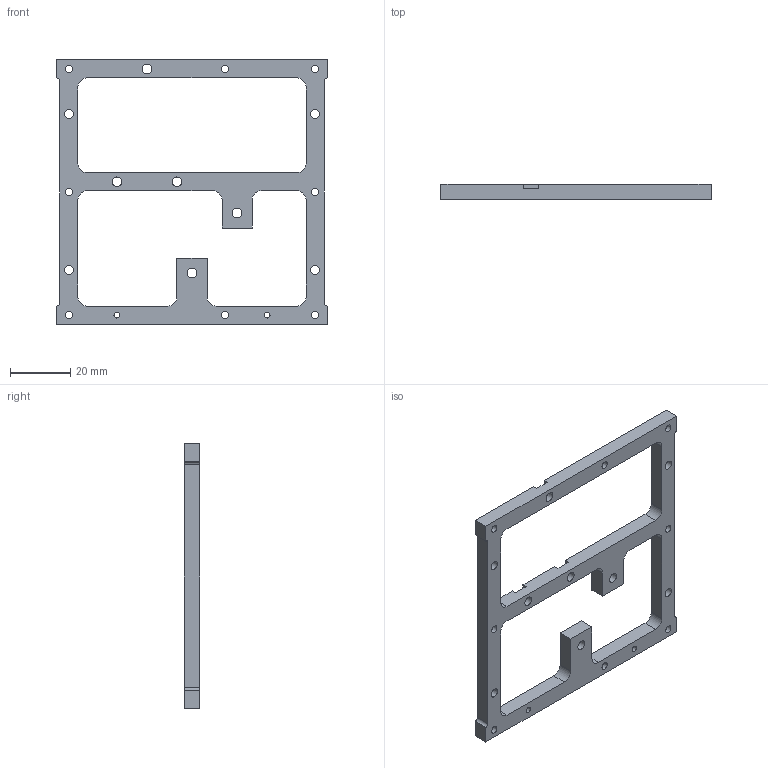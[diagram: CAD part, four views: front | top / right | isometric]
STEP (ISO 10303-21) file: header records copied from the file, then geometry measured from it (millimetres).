
FILE_DESCRIPTION(/* description */ ('','CAx-IF Rec.Pracs.---Representation and Presentation of Product Manufacturing Information (PMI)---4.0---2014-10-13'),/* implementation_level */ '2;1');
FILE_NAME(/* name */ 'a1_mini_toolhead_back_v4.step',/* time_stamp */ '2024-12-17T15:04:19+08:00',/* author */ (''),/* organization */ (''),/* preprocessor_version */ 'ST-DEVELOPER v20',/* originating_system */ 'Autodesk Translation Framework v13.20.0.188',/* authorisation */ '');
FILE_SCHEMA (('AP242_MANAGED_MODEL_BASED_3D_ENGINEERING_MIM_LF { 1 0 10303 442 1 1 4 }'));
Length unit declared in the file: millimetre
Products named in the file (1): a1_mini_toolhead_back
Bounding box: 90 x 5 x 88 mm (x, y, z)
Volume: 13092 mm3; surface area: 10285.9 mm2
Topology: 1 solids, 1 shells, 83 faces, 249 edges, 166 vertices
Faces by surface type: plane 42, cylinder 41
Full cylindrical faces by diameter (mm): 2 x2, 2.5 x8, 3 x4, 3.2 x5
Entity records: 2942 total; most frequent: DIRECTION 499, CARTESIAN_POINT 499, ORIENTED_EDGE 498, EDGE_CURVE 249, LINE 167, VECTOR 167, VERTEX_POINT 166, AXIS2_PLACEMENT_3D 166
